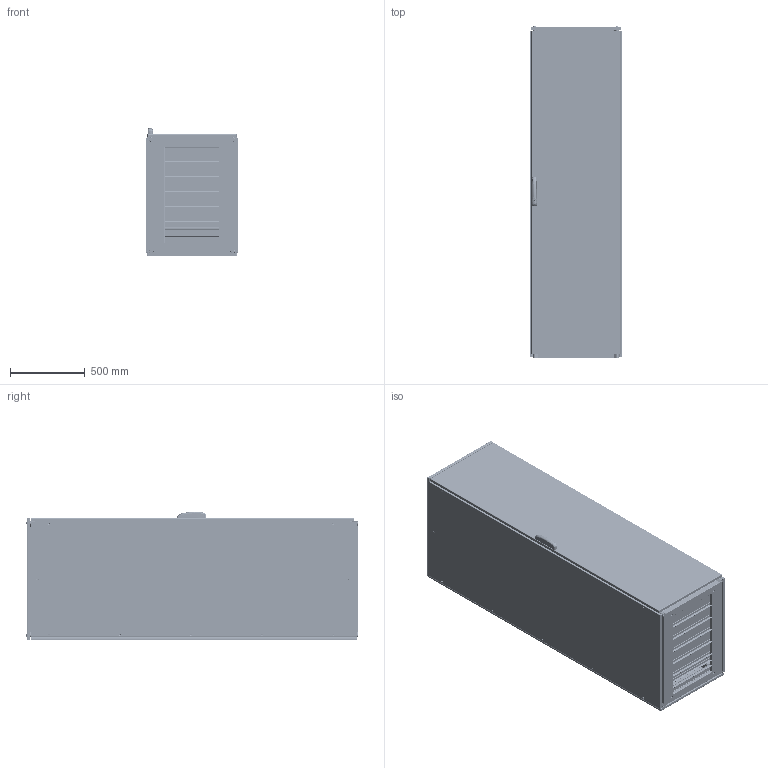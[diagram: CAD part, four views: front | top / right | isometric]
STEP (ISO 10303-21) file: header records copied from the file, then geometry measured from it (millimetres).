
FILE_DESCRIPTION (( 'STEP AP203' ), '1' );
FILE_NAME ('ENUX062208PR.STEP', '2025-05-28T15:16:17', ( '' ), ( '' ), 'SwSTEP 2.0', 'SolidWorks 2022', '' );
FILE_SCHEMA (( 'CONFIG_CONTROL_DESIGN' ));
Length unit declared in the file: millimetre
Products named in the file (12): AR_ENUX_Struttura_0600x2200x0800; AR_ENUX_Tegolino_0600x0050; AR_ENUX_Tetto_0600x0800; AR_ENUX_Fianco_0800x2200_DX; AR_ENUX_Retro_singolo_0600x2200; ENUX062208PR; AR_ENUX_Fianco_0800x2200_SX; AR_ENUX_Vite_tetto; AR_ENUX_Porta_singola_2.0_0600x2200_ANT; AR_ENUX_montaggio_porta_singlola_2.0_0600x2200_ANT_DX; AR_ENUX_Tegolino_0600x0100; AR_ENUX_nuova_maniglia_mesan
Assembly tree (19 placements, depth 3):
  ENUX062208PR
    AR_ENUX_Struttura_0600x2200x0800
    AR_ENUX_Retro_singolo_0600x2200
    AR_ENUX_montaggio_porta_singlola_2.0_0600x2200_ANT_DX
      AR_ENUX_Porta_singola_2.0_0600x2200_ANT
      AR_ENUX_nuova_maniglia_mesan
    AR_ENUX_Fianco_0800x2200_SX
    AR_ENUX_Fianco_0800x2200_DX
    AR_ENUX_Tetto_0600x0800
    AR_ENUX_Vite_tetto  x4
    AR_ENUX_Tegolino_0600x0100  x5
    AR_ENUX_Tegolino_0600x0050  x2
Bounding box: 612 x 2215.1 x 857 mm (x, y, z)
Volume: 14075219.9 mm3; surface area: 21474932 mm2
Topology: 18 solids, 18 shells, 9816 faces, 27781 edges, 17892 vertices
Faces by surface type: plane 5399, cylinder 3457, bspline 365, torus 283, cone 244, sphere 68
Entity records: 353071 total; most frequent: CARTESIAN_POINT 94928, ORIENTED_EDGE 53540, DIRECTION 51165, EDGE_CURVE 26770, VECTOR 18469, LINE 18469, VERTEX_POINT 17414, AXIS2_PLACEMENT_3D 16348
